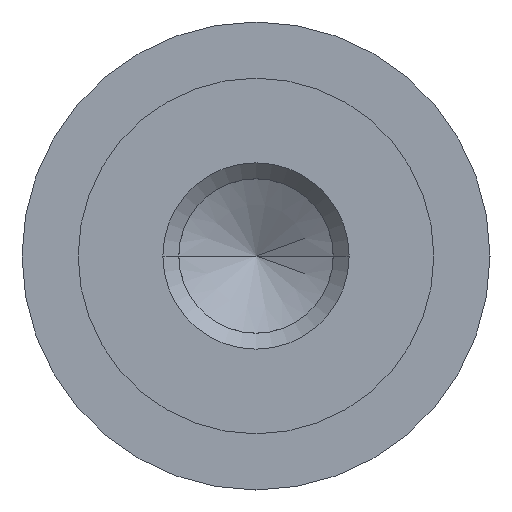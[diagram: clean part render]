
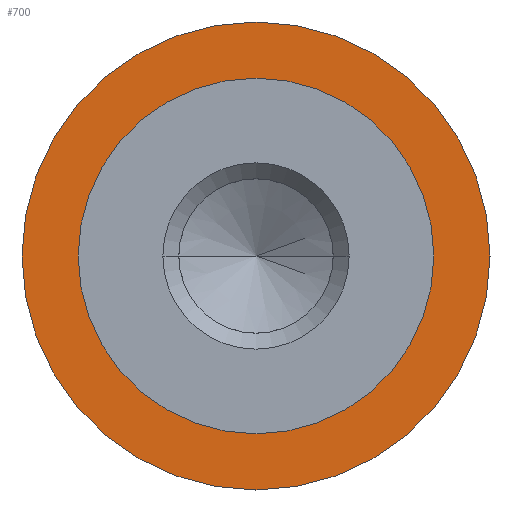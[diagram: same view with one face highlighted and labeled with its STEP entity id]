
A CAD part, left-side view. The second image highlights one B-rep face of the part: STEP entity #700.
In plain terms, the highlighted planar face has unit normal (-1, 0, 0).
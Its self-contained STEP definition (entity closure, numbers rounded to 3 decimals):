
#35 = CIRCLE ( 'NONE', #520, 3.8 ) ;
#73 = DIRECTION ( 'NONE',  ( 0., 0., 1. ) ) ;
#141 = EDGE_CURVE ( 'NONE', #504, #224, #35, .T. ) ;
#166 = CARTESIAN_POINT ( 'NONE',  ( -5., 3.8, 0. ) ) ;
#180 = CARTESIAN_POINT ( 'NONE',  ( -5., 0., 3.8 ) ) ;
#215 = FACE_OUTER_BOUND ( 'NONE', #465, .T. ) ;
#224 = VERTEX_POINT ( 'NONE', #180 ) ;
#244 = DIRECTION ( 'NONE',  ( 1., 0., 0. ) ) ;
#287 = DIRECTION ( 'NONE',  ( -1., 0., 0. ) ) ;
#290 = DIRECTION ( 'NONE',  ( 0., 0., -1. ) ) ;
#294 = AXIS2_PLACEMENT_3D ( 'NONE', #610, #685, #73 ) ;
#302 = EDGE_LOOP ( 'NONE', ( #366, #501 ) ) ;
#303 = CARTESIAN_POINT ( 'NONE',  ( -5., 0., -3.8 ) ) ;
#306 = EDGE_CURVE ( 'NONE', #497, #316, #359, .T. ) ;
#316 = VERTEX_POINT ( 'NONE', #496 ) ;
#339 = AXIS2_PLACEMENT_3D ( 'NONE', #346, #482, #770 ) ;
#346 = CARTESIAN_POINT ( 'NONE',  ( -5., 0., 0. ) ) ;
#359 = CIRCLE ( 'NONE', #294, 5. ) ;
#366 = ORIENTED_EDGE ( 'NONE', *, *, #708, .F. ) ;
#403 = PLANE ( 'NONE',  #759 ) ;
#411 = DIRECTION ( 'NONE',  ( 0., 0., 1. ) ) ;
#414 = CIRCLE ( 'NONE', #339, 3.8 ) ;
#419 = CARTESIAN_POINT ( 'NONE',  ( -5., 0., 0. ) ) ;
#431 = ORIENTED_EDGE ( 'NONE', *, *, #774, .T. ) ;
#465 = EDGE_LOOP ( 'NONE', ( #431, #734 ) ) ;
#472 = DIRECTION ( 'NONE',  ( 0., 0., 1. ) ) ;
#482 = DIRECTION ( 'NONE',  ( -1., 0., 0. ) ) ;
#486 = DIRECTION ( 'NONE',  ( -1., 0., 0. ) ) ;
#496 = CARTESIAN_POINT ( 'NONE',  ( -5., 0., 5. ) ) ;
#497 = VERTEX_POINT ( 'NONE', #534 ) ;
#501 = ORIENTED_EDGE ( 'NONE', *, *, #141, .F. ) ;
#504 = VERTEX_POINT ( 'NONE', #303 ) ;
#510 = AXIS2_PLACEMENT_3D ( 'NONE', #419, #287, #411 ) ;
#520 = AXIS2_PLACEMENT_3D ( 'NONE', #544, #486, #472 ) ;
#534 = CARTESIAN_POINT ( 'NONE',  ( -5., 0., -5. ) ) ;
#544 = CARTESIAN_POINT ( 'NONE',  ( -5., 0., 0. ) ) ;
#569 = FACE_BOUND ( 'NONE', #302, .T. ) ;
#610 = CARTESIAN_POINT ( 'NONE',  ( -5., 0., 0. ) ) ;
#685 = DIRECTION ( 'NONE',  ( -1., 0., 0. ) ) ;
#700 = ADVANCED_FACE ( 'NONE', ( #569, #215 ), #403, .F. ) ;
#708 = EDGE_CURVE ( 'NONE', #224, #504, #414, .T. ) ;
#723 = CIRCLE ( 'NONE', #510, 5. ) ;
#734 = ORIENTED_EDGE ( 'NONE', *, *, #306, .T. ) ;
#759 = AXIS2_PLACEMENT_3D ( 'NONE', #166, #244, #290 ) ;
#770 = DIRECTION ( 'NONE',  ( 0., 0., 1. ) ) ;
#774 = EDGE_CURVE ( 'NONE', #316, #497, #723, .T. ) ;
